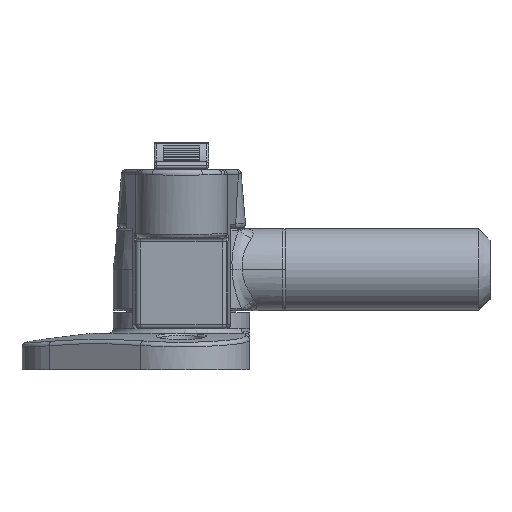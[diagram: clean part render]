
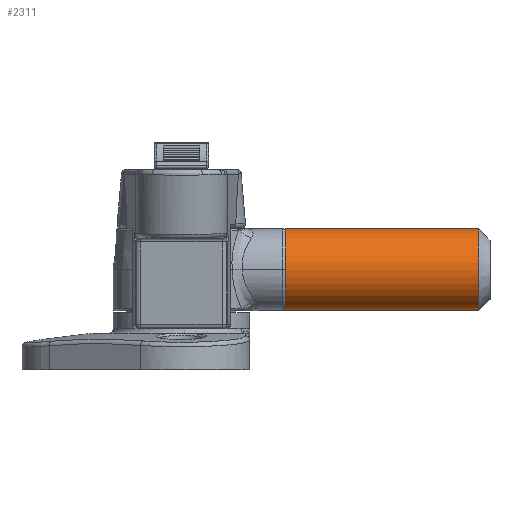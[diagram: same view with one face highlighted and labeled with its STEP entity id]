
A CAD part, front view. The second image highlights one B-rep face of the part: STEP entity #2311.
In plain terms, the highlighted cylindrical face has radius 9 mm (diameter 18 mm), a partial arc.
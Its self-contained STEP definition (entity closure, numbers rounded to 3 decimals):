
#288 = EDGE_LOOP ( 'NONE', ( #8862, #8863, #8864, #8865 ) ) ;
#404 = VERTEX_POINT ( 'NONE', #1173 ) ;
#417 = VERTEX_POINT ( 'NONE', #1185 ) ;
#456 = VERTEX_POINT ( 'NONE', #1224 ) ;
#460 = VERTEX_POINT ( 'NONE', #1228 ) ;
#1173 = CARTESIAN_POINT ( 'NONE',  ( -9., 0., 0. ) ) ;
#1185 = CARTESIAN_POINT ( 'NONE',  ( 9., 0., 0. ) ) ;
#1224 = CARTESIAN_POINT ( 'NONE',  ( -9., 0., 42.5 ) ) ;
#1228 = CARTESIAN_POINT ( 'NONE',  ( 9., 0., 42.5 ) ) ;
#1377 = AXIS2_PLACEMENT_3D ( 'NONE', #7675, #7676, #7677 ) ;
#1378 = AXIS2_PLACEMENT_3D ( 'NONE', #7678, #7679, #7680 ) ;
#1784 = DIRECTION ( 'NONE',  ( -1., 0., 0. ) ) ;
#1785 = CARTESIAN_POINT ( 'NONE',  ( 0., 0., 45. ) ) ;
#1786 = DIRECTION ( 'NONE',  ( 0., 0., -1. ) ) ;
#2311 = ADVANCED_FACE ( 'NONE', ( #13337 ), #2390, .T. ) ;
#2390 = CYLINDRICAL_SURFACE ( 'NONE', #12368, 9. ) ;
#6584 = LINE ( 'NONE', #7665, #6588 ) ;
#6585 = CIRCLE ( 'NONE', #1377, 9. ) ;
#6588 = VECTOR ( 'NONE', #7671, 1000. ) ;
#6589 = LINE ( 'NONE', #7670, #6591 ) ;
#6591 = VECTOR ( 'NONE', #7664, 1000. ) ;
#6592 = CIRCLE ( 'NONE', #1378, 9. ) ;
#7664 = DIRECTION ( 'NONE',  ( 0., 0., -1. ) ) ;
#7665 = CARTESIAN_POINT ( 'NONE',  ( 9., 0., 45. ) ) ;
#7670 = CARTESIAN_POINT ( 'NONE',  ( -9., 0., 45. ) ) ;
#7671 = DIRECTION ( 'NONE',  ( 0., 0., -1. ) ) ;
#7675 = CARTESIAN_POINT ( 'NONE',  ( 0., 0., 42.5 ) ) ;
#7676 = DIRECTION ( 'NONE',  ( 0., 0., -1. ) ) ;
#7677 = DIRECTION ( 'NONE',  ( 1., 0., 0. ) ) ;
#7678 = CARTESIAN_POINT ( 'NONE',  ( 0., 0., 0. ) ) ;
#7679 = DIRECTION ( 'NONE',  ( 0., 0., 1. ) ) ;
#7680 = DIRECTION ( 'NONE',  ( 1., 0., 0. ) ) ;
#8862 = ORIENTED_EDGE ( 'NONE', *, *, #11728, .F. ) ;
#8863 = ORIENTED_EDGE ( 'NONE', *, *, #11731, .T. ) ;
#8864 = ORIENTED_EDGE ( 'NONE', *, *, #11730, .T. ) ;
#8865 = ORIENTED_EDGE ( 'NONE', *, *, #11732, .T. ) ;
#11728 = EDGE_CURVE ( 'NONE', #460, #417, #6584, .T. ) ;
#11730 = EDGE_CURVE ( 'NONE', #456, #404, #6589, .T. ) ;
#11731 = EDGE_CURVE ( 'NONE', #460, #456, #6585, .T. ) ;
#11732 = EDGE_CURVE ( 'NONE', #404, #417, #6592, .T. ) ;
#12368 = AXIS2_PLACEMENT_3D ( 'NONE', #1785, #1786, #1784 ) ;
#13337 = FACE_OUTER_BOUND ( 'NONE', #288, .T. ) ;
